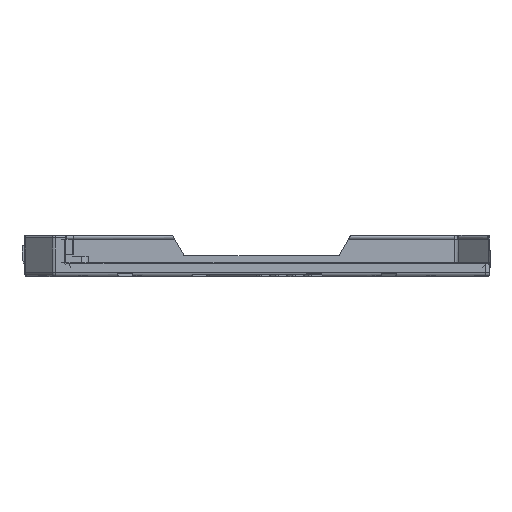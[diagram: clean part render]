
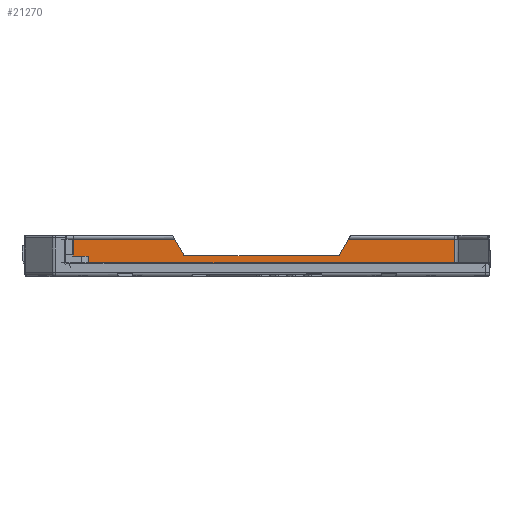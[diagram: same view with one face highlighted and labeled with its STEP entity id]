
A CAD part, left-side view. The second image highlights one B-rep face of the part: STEP entity #21270.
In plain terms, the highlighted planar face has unit normal (-1, 0, 0).
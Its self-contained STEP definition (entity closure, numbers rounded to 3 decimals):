
#2792=DIRECTION('',(0.,0.,1.));
#2793=VECTOR('',#2792,5.583);
#2794=CARTESIAN_POINT('',(248.2,8.541,-2.583));
#2795=LINE('',#2794,#2793);
#4089=DIRECTION('',(0.,-0.5,-0.866));
#4090=VECTOR('',#4089,4.272);
#4091=CARTESIAN_POINT('',(248.2,75.923,3.));
#4092=LINE('',#4091,#4090);
#4093=DIRECTION('',(0.,1.,0.));
#4094=VECTOR('',#4093,36.534);
#4095=CARTESIAN_POINT('',(248.2,36.733,-1.));
#4096=LINE('',#4095,#4094);
#4097=DIRECTION('',(0.,0.5,-0.866));
#4098=VECTOR('',#4097,4.272);
#4099=CARTESIAN_POINT('',(248.2,34.077,3.));
#4100=LINE('',#4099,#4098);
#4101=DIRECTION('',(0.,1.,0.));
#4102=VECTOR('',#4101,25.536);
#4103=CARTESIAN_POINT('',(248.2,8.541,3.));
#4104=LINE('',#4103,#4102);
#4105=DIRECTION('',(0.,0.,1.));
#4106=VECTOR('',#4105,5.583);
#4107=CARTESIAN_POINT('',(248.2,101.459,-2.583));
#4108=LINE('',#4107,#4106);
#4109=DIRECTION('',(0.,1.,0.));
#4110=VECTOR('',#4109,25.536);
#4111=CARTESIAN_POINT('',(248.2,75.923,3.));
#4112=LINE('',#4111,#4110);
#4226=CARTESIAN_POINT('',(248.2,36.733,-0.4));
#4227=DIRECTION('',(1.,0.,0.));
#4228=DIRECTION('',(0.,-0.866,-0.5));
#4229=AXIS2_PLACEMENT_3D('',#4226,#4227,#4228);
#4243=CARTESIAN_POINT('',(248.2,73.267,-0.4));
#4244=DIRECTION('',(1.,0.,0.));
#4245=DIRECTION('',(0.,0.,-1.));
#4246=AXIS2_PLACEMENT_3D('',#4243,#4244,#4245);
#4294=DIRECTION('',(0.,1.,0.));
#4295=VECTOR('',#4294,92.918);
#4296=CARTESIAN_POINT('',(248.2,8.541,-2.583));
#4297=LINE('',#4296,#4295);
#4473=CARTESIAN_POINT('',(248.2,8.541,-2.583));
#12860=VERTEX_POINT('',#4473);
#12861=CARTESIAN_POINT('',(248.2,101.459,
-2.583));
#12862=VERTEX_POINT('',#12861);
#12965=CARTESIAN_POINT('',(248.2,101.459,3.));
#12966=VERTEX_POINT('',#12965);
#12967=CARTESIAN_POINT('',(248.2,8.541,3.));
#12968=VERTEX_POINT('',#12967);
#13053=CARTESIAN_POINT('',(248.2,34.077,3.));
#13054=VERTEX_POINT('',#13053);
#13055=CARTESIAN_POINT('',(248.2,75.923,3.));
#13056=VERTEX_POINT('',#13055);
#16017=CARTESIAN_POINT('',(248.2,36.733,-1.));
#16019=VERTEX_POINT('',#16017);
#16020=CARTESIAN_POINT('',(248.2,36.214,-0.7));
#16021=VERTEX_POINT('',#16020);
#16064=CARTESIAN_POINT('',(248.2,73.786,-0.7));
#16065=VERTEX_POINT('',#16064);
#16066=CARTESIAN_POINT('',(248.2,73.267,-1.));
#16067=VERTEX_POINT('',#16066);
#21245=CARTESIAN_POINT('',(248.2,0.,3.));
#21246=DIRECTION('',(1.,0.,0.));
#21247=DIRECTION('',(0.,1.,0.));
#21248=AXIS2_PLACEMENT_3D('',#21245,#21246,#21247);
#21249=PLANE('',#21248);
#21251=ORIENTED_EDGE('',*,*,#21250,.T.);
#21253=ORIENTED_EDGE('',*,*,#21252,.F.);
#21255=ORIENTED_EDGE('',*,*,#21254,.F.);
#21257=ORIENTED_EDGE('',*,*,#21256,.F.);
#21259=ORIENTED_EDGE('',*,*,#21258,.F.);
#21261=ORIENTED_EDGE('',*,*,#21260,.F.);
#21262=ORIENTED_EDGE('',*,*,#19371,.F.);
#21264=ORIENTED_EDGE('',*,*,#21263,.T.);
#21265=ORIENTED_EDGE('',*,*,#21235,.T.);
#21267=ORIENTED_EDGE('',*,*,#21266,.F.);
#21268=EDGE_LOOP('',(#21251,#21253,#21255,#21257,#21259,#21261,#21262,#21264,
#21265,#21267));
#21269=FACE_OUTER_BOUND('',#21268,.F.);
#21270=ADVANCED_FACE('',(#21269),#21249,.F.);
#4230=CIRCLE('',#4229,0.6);
#4247=CIRCLE('',#4246,0.6);
#19371=EDGE_CURVE('',#12860,#12968,#2795,.T.);
#21235=EDGE_CURVE('',#12862,#12966,#4108,.T.);
#21250=EDGE_CURVE('',#13056,#16065,#4092,.T.);
#21252=EDGE_CURVE('',#16067,#16065,#4247,.T.);
#21254=EDGE_CURVE('',#16019,#16067,#4096,.T.);
#21256=EDGE_CURVE('',#16021,#16019,#4230,.T.);
#21258=EDGE_CURVE('',#13054,#16021,#4100,.T.);
#21260=EDGE_CURVE('',#12968,#13054,#4104,.T.);
#21263=EDGE_CURVE('',#12860,#12862,#4297,.T.);
#21266=EDGE_CURVE('',#13056,#12966,#4112,.T.);
